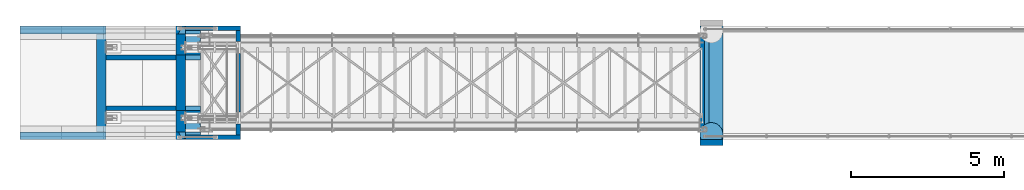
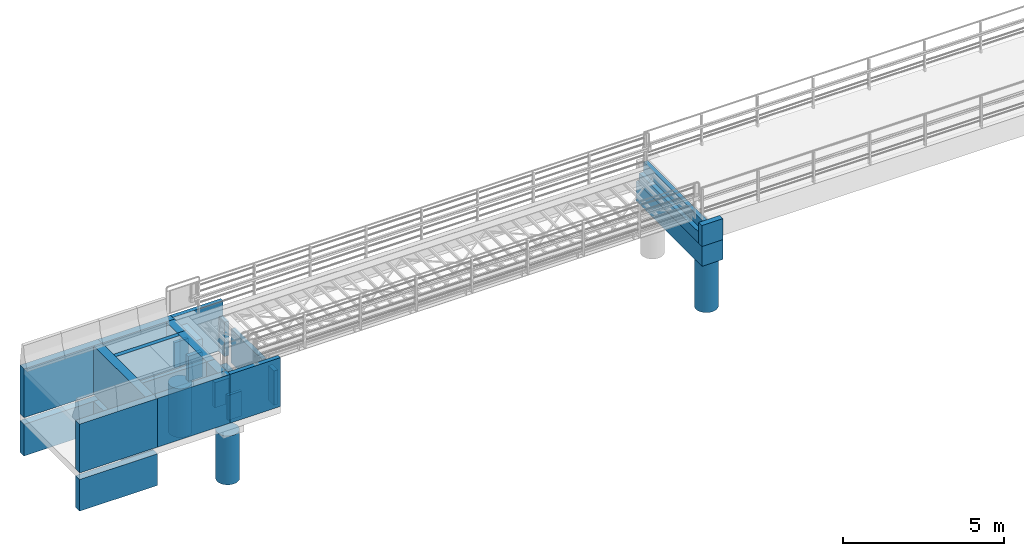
# One storey, part 30 of 31: 31 walls.
"""IFC2X3 building model written with IfcOpenShell, lengths in millimetres."""

from ifc_helpers import new_model, si_unit, frame, origin_with_axes, place, context, subcontext, project, spatial, faceted_brep, material, type_object, element, save


model = new_model("IFC2X3")

# Units and contexts
model_context = context("Model", 3, precision=1e-05, world=origin_with_axes())
body_context = subcontext(model_context, "Body", "Model", "MODEL_VIEW")
ifc_project = project(units=[si_unit("LENGTHUNIT", "METRE", prefix="MILLI"), si_unit("AREAUNIT", "SQUARE_METRE"), si_unit("VOLUMEUNIT", "CUBIC_METRE"), si_unit("MASSUNIT", "GRAM", prefix="KILO"), si_unit("TIMEUNIT", "SECOND"), si_unit("PLANEANGLEUNIT", "RADIAN"), si_unit("SOLIDANGLEUNIT", "STERADIAN"), si_unit("THERMODYNAMICTEMPERATUREUNIT", "DEGREE_CELSIUS"), si_unit("LUMINOUSINTENSITYUNIT", "LUMEN")], contexts=[model_context])

# Site, building, storey
site_placement = place(None, origin_with_axes())
site = spatial("IfcSite", under=ifc_project, at=site_placement, Name="Undefined", CompositionType="ELEMENT")
building_placement = place(site_placement, origin_with_axes())
building = spatial("IfcBuilding", under=site, at=building_placement, Name="Undefined", CompositionType="ELEMENT")
storey_placement = place(building_placement, origin_with_axes())
storey = spatial("IfcBuildingStorey", under=building, at=storey_placement, Name="Undefined", CompositionType="ELEMENT", Elevation=0.0)

# Walls
ifc_material = material(Name="CONCRETE/B35")
wall_type_1 = type_object("IfcWallType", Name="D750", PredefinedType="NOTDEFINED")
wall_1_placement = place(storey_placement, frame((2725.0, 2625.0, -2350.0), z_axis=(-1.0, 0.0, 0.0), x_axis=(0.0, 0.0, -1.0)))
element("IfcWall", 1, at=wall_1_placement, inside=storey, type_object=wall_type_1, material=ifc_material, Name="PLASSTØPTVEGG", context=body_context, shape_type="Brep", body=[
    faceted_brep([(0.0, -375.0, 0.0), (0.0, -371.791823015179, -48.9473220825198), (1850.0, -371.791823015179, -48.9473220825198), (1850.0, -375.0, 0.0), (0.0, -362.2221848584, -97.0571419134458), (1850.0, -362.2221848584, -97.0571419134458), (0.0, -346.454824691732, -143.506287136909), (1850.0, -346.454824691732, -143.506287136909), (0.0, -324.759526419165, -187.5), (1850.0, -324.759526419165, -187.5), (0.0, -297.507502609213, -228.28553587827), (1850.0, -297.507502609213, -228.28553587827), (0.0, -265.165042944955, -265.165042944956), (1850.0, -265.165042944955, -265.165042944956), (0.0, -228.28553587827, -297.507502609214), (1850.0, -228.28553587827, -297.507502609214), (0.0, -187.5, -324.759526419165), (1850.0, -187.5, -324.759526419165), (0.0, -143.506287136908, -346.454824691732), (1850.0, -143.506287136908, -346.454824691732), (0.0, -97.0571419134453, -362.222184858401), (1850.0, -97.0571419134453, -362.222184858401), (0.0, -48.9473220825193, -371.791823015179), (1850.0, -48.9473220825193, -371.791823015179), (0.0, 0.0, -375.0), (1850.0, 0.0, -375.0), (0.0, 48.9473220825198, -371.791823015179), (1850.0, 48.9473220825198, -371.791823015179), (0.0, 97.0571419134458, -362.2221848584), (1850.0, 97.0571419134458, -362.2221848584), (0.0, 143.506287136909, -346.454824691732), (1850.0, 143.506287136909, -346.454824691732), (0.0, 187.5, -324.759526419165), (1850.0, 187.5, -324.759526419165), (0.0, 228.28553587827, -297.507502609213), (1850.0, 228.28553587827, -297.507502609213), (0.0, 265.165042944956, -265.165042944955), (1850.0, 265.165042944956, -265.165042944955), (0.0, 297.507502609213, -228.28553587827), (1850.0, 297.507502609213, -228.28553587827), (0.0, 324.759526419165, -187.5), (1850.0, 324.759526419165, -187.5), (0.0, 346.454824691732, -143.506287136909), (1850.0, 346.454824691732, -143.506287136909), (0.0, 362.222184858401, -97.0571419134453), (1850.0, 362.222184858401, -97.0571419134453), (0.0, 371.791823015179, -48.9473220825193), (1850.0, 371.791823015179, -48.9473220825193), (0.0, 375.0, 0.0), (1850.0, 375.0, 0.0), (0.0, 371.791823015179, 48.9473220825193), (1850.0, 371.791823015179, 48.9473220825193), (0.0, 362.2221848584, 97.0571419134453), (1850.0, 362.2221848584, 97.0571419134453), (0.0, 346.454824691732, 143.506287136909), (1850.0, 346.454824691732, 143.506287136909), (0.0, 324.759526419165, 187.5), (1850.0, 324.759526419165, 187.5), (0.0, 297.507502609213, 228.28553587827), (1850.0, 297.507502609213, 228.28553587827), (0.0, 265.165042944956, 265.165042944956), (1850.0, 265.165042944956, 265.165042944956), (0.0, 228.28553587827, 297.507502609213), (1850.0, 228.28553587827, 297.507502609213), (0.0, 187.5, 324.759526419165), (1850.0, 187.5, 324.759526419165), (0.0, 143.506287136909, 346.454824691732), (1850.0, 143.506287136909, 346.454824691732), (0.0, 97.0571419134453, 362.2221848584), (1850.0, 97.0571419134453, 362.2221848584), (0.0, 48.9473220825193, 371.791823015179), (1850.0, 48.9473220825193, 371.791823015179), (0.0, 0.0, 375.0), (1850.0, 0.0, 375.0), (0.0, -48.9473220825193, 371.791823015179), (1850.0, -48.9473220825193, 371.791823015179), (0.0, -97.0571419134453, 362.2221848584), (1850.0, -97.0571419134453, 362.2221848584), (0.0, -143.506287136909, 346.454824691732), (1850.0, -143.506287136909, 346.454824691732), (0.0, -187.5, 324.759526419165), (1850.0, -187.5, 324.759526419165), (0.0, -228.28553587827, 297.507502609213), (1850.0, -228.28553587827, 297.507502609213), (0.0, -265.165042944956, 265.165042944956), (1850.0, -265.165042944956, 265.165042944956), (0.0, -297.507502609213, 228.28553587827), (1850.0, -297.507502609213, 228.28553587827), (0.0, -324.759526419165, 187.5), (1850.0, -324.759526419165, 187.5), (0.0, -346.454824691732, 143.506287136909), (1850.0, -346.454824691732, 143.506287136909), (0.0, -362.2221848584, 97.0571419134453), (1850.0, -362.2221848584, 97.0571419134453), (0.0, -371.791823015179, 48.9473220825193), (1850.0, -371.791823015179, 48.9473220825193)], [[[0, 1, 2, 3]], [[1, 4, 5, 2]], [[4, 6, 7, 5]], [[6, 8, 9, 7]], [[8, 10, 11, 9]], [[10, 12, 13, 11]], [[12, 14, 15, 13]], [[14, 16, 17, 15]], [[16, 18, 19, 17]], [[18, 20, 21, 19]], [[20, 22, 23, 21]], [[22, 24, 25, 23]], [[24, 26, 27, 25]], [[26, 28, 29, 27]], [[28, 30, 31, 29]], [[30, 32, 33, 31]], [[32, 34, 35, 33]], [[34, 36, 37, 35]], [[36, 38, 39, 37]], [[38, 40, 41, 39]], [[40, 42, 43, 41]], [[42, 44, 45, 43]], [[44, 46, 47, 45]], [[46, 48, 49, 47]], [[48, 50, 51, 49]], [[50, 52, 53, 51]], [[52, 54, 55, 53]], [[54, 56, 57, 55]], [[56, 58, 59, 57]], [[58, 60, 61, 59]], [[60, 62, 63, 61]], [[62, 64, 65, 63]], [[64, 66, 67, 65]], [[66, 68, 69, 67]], [[68, 70, 71, 69]], [[70, 72, 73, 71]], [[72, 74, 75, 73]], [[74, 76, 77, 75]], [[76, 78, 79, 77]], [[78, 80, 81, 79]], [[80, 82, 83, 81]], [[82, 84, 85, 83]], [[84, 86, 87, 85]], [[86, 88, 89, 87]], [[88, 90, 91, 89]], [[90, 92, 93, 91]], [[92, 94, 95, 93]], [[94, 0, 3, 95]], [[5, 7, 9, 11, 13, 15, 17, 19, 21, 23, 25, 27, 29, 31, 33, 35, 37, 39, 41, 43, 45, 47, 49, 51, 53, 55, 57, 59, 61, 63, 65, 67, 69, 71, 73, 75, 77, 79, 81, 83, 85, 87, 89, 91, 93, 95, 3, 2]], [[94, 92, 90, 88, 86, 84, 82, 80, 78, 76, 74, 72, 70, 68, 66, 64, 62, 60, 58, 56, 54, 52, 50, 48, 46, 44, 42, 40, 38, 36, 34, 32, 30, 28, 26, 24, 22, 20, 18, 16, 14, 12, 10, 8, 6, 4, 1, 0]]]),
])
wall_2_placement = place(storey_placement, frame((19775.0, -525.0, -1670.0), z_axis=(-1.0, 0.0, 0.0), x_axis=(0.0, 0.0, -1.0)))
element("IfcWall", 2, at=wall_2_placement, inside=storey, type_object=wall_type_1, material=ifc_material, Name="PLASSTØPTVEGG", context=body_context, shape_type="Brep", body=[
    faceted_brep([(0.0, -375.0, 0.0), (0.0, -371.791823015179, -48.9473220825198), (1850.0, -371.791823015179, -48.9473220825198), (1850.0, -375.0, 0.0), (0.0, -362.2221848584, -97.0571419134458), (1850.0, -362.2221848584, -97.0571419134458), (0.0, -346.454824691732, -143.506287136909), (1850.0, -346.454824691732, -143.506287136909), (0.0, -324.759526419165, -187.5), (1850.0, -324.759526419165, -187.5), (0.0, -297.507502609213, -228.28553587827), (1850.0, -297.507502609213, -228.28553587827), (0.0, -265.165042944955, -265.165042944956), (1850.0, -265.165042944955, -265.165042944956), (0.0, -228.28553587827, -297.507502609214), (1850.0, -228.28553587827, -297.507502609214), (0.0, -187.5, -324.759526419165), (1850.0, -187.5, -324.759526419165), (0.0, -143.506287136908, -346.454824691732), (1850.0, -143.506287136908, -346.454824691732), (0.0, -97.0571419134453, -362.222184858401), (1850.0, -97.0571419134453, -362.222184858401), (0.0, -48.9473220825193, -371.791823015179), (1850.0, -48.9473220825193, -371.791823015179), (0.0, 0.0, -375.0), (1850.0, 0.0, -375.0), (0.0, 48.9473220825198, -371.791823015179), (1850.0, 48.9473220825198, -371.791823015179), (0.0, 97.0571419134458, -362.2221848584), (1850.0, 97.0571419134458, -362.2221848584), (0.0, 143.506287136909, -346.454824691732), (1850.0, 143.506287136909, -346.454824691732), (0.0, 187.5, -324.759526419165), (1850.0, 187.5, -324.759526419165), (0.0, 228.28553587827, -297.507502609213), (1850.0, 228.28553587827, -297.507502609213), (0.0, 265.165042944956, -265.165042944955), (1850.0, 265.165042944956, -265.165042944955), (0.0, 297.507502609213, -228.28553587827), (1850.0, 297.507502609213, -228.28553587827), (0.0, 324.759526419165, -187.5), (1850.0, 324.759526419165, -187.5), (0.0, 346.454824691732, -143.506287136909), (1850.0, 346.454824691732, -143.506287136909), (0.0, 362.222184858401, -97.0571419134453), (1850.0, 362.222184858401, -97.0571419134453), (0.0, 371.791823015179, -48.9473220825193), (1850.0, 371.791823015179, -48.9473220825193), (0.0, 375.0, 0.0), (1850.0, 375.0, 0.0), (0.0, 371.791823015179, 48.9473220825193), (1850.0, 371.791823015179, 48.9473220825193), (0.0, 362.2221848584, 97.0571419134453), (1850.0, 362.2221848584, 97.0571419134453), (0.0, 346.454824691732, 143.506287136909), (1850.0, 346.454824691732, 143.506287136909), (0.0, 324.759526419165, 187.5), (1850.0, 324.759526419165, 187.5), (0.0, 297.507502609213, 228.28553587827), (1850.0, 297.507502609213, 228.28553587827), (0.0, 265.165042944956, 265.165042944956), (1850.0, 265.165042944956, 265.165042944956), (0.0, 228.28553587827, 297.507502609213), (1850.0, 228.28553587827, 297.507502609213), (0.0, 187.5, 324.759526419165), (1850.0, 187.5, 324.759526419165), (0.0, 143.506287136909, 346.454824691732), (1850.0, 143.506287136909, 346.454824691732), (0.0, 97.0571419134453, 362.2221848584), (1850.0, 97.0571419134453, 362.2221848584), (0.0, 48.9473220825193, 371.791823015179), (1850.0, 48.9473220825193, 371.791823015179), (0.0, 0.0, 375.0), (1850.0, 0.0, 375.0), (0.0, -48.9473220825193, 371.791823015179), (1850.0, -48.9473220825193, 371.791823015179), (0.0, -97.0571419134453, 362.2221848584), (1850.0, -97.0571419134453, 362.2221848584), (0.0, -143.506287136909, 346.454824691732), (1850.0, -143.506287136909, 346.454824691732), (0.0, -187.5, 324.759526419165), (1850.0, -187.5, 324.759526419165), (0.0, -228.28553587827, 297.507502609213), (1850.0, -228.28553587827, 297.507502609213), (0.0, -265.165042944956, 265.165042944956), (1850.0, -265.165042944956, 265.165042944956), (0.0, -297.507502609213, 228.28553587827), (1850.0, -297.507502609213, 228.28553587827), (0.0, -324.759526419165, 187.5), (1850.0, -324.759526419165, 187.5), (0.0, -346.454824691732, 143.506287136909), (1850.0, -346.454824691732, 143.506287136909), (0.0, -362.2221848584, 97.0571419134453), (1850.0, -362.2221848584, 97.0571419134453), (0.0, -371.791823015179, 48.9473220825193), (1850.0, -371.791823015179, 48.9473220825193)], [[[0, 1, 2, 3]], [[1, 4, 5, 2]], [[4, 6, 7, 5]], [[6, 8, 9, 7]], [[8, 10, 11, 9]], [[10, 12, 13, 11]], [[12, 14, 15, 13]], [[14, 16, 17, 15]], [[16, 18, 19, 17]], [[18, 20, 21, 19]], [[20, 22, 23, 21]], [[22, 24, 25, 23]], [[24, 26, 27, 25]], [[26, 28, 29, 27]], [[28, 30, 31, 29]], [[30, 32, 33, 31]], [[32, 34, 35, 33]], [[34, 36, 37, 35]], [[36, 38, 39, 37]], [[38, 40, 41, 39]], [[40, 42, 43, 41]], [[42, 44, 45, 43]], [[44, 46, 47, 45]], [[46, 48, 49, 47]], [[48, 50, 51, 49]], [[50, 52, 53, 51]], [[52, 54, 55, 53]], [[54, 56, 57, 55]], [[56, 58, 59, 57]], [[58, 60, 61, 59]], [[60, 62, 63, 61]], [[62, 64, 65, 63]], [[64, 66, 67, 65]], [[66, 68, 69, 67]], [[68, 70, 71, 69]], [[70, 72, 73, 71]], [[72, 74, 75, 73]], [[74, 76, 77, 75]], [[76, 78, 79, 77]], [[78, 80, 81, 79]], [[80, 82, 83, 81]], [[82, 84, 85, 83]], [[84, 86, 87, 85]], [[86, 88, 89, 87]], [[88, 90, 91, 89]], [[90, 92, 93, 91]], [[92, 94, 95, 93]], [[94, 0, 3, 95]], [[5, 7, 9, 11, 13, 15, 17, 19, 21, 23, 25, 27, 29, 31, 33, 35, 37, 39, 41, 43, 45, 47, 49, 51, 53, 55, 57, 59, 61, 63, 65, 67, 69, 71, 73, 75, 77, 79, 81, 83, 85, 87, 89, 91, 93, 95, 3, 2]], [[94, 92, 90, 88, 86, 84, 82, 80, 78, 76, 74, 72, 70, 68, 66, 64, 62, 60, 58, 56, 54, 52, 50, 48, 46, 44, 42, 40, 38, 36, 34, 32, 30, 28, 26, 24, 22, 20, 18, 16, 14, 12, 10, 8, 6, 4, 1, 0]]]),
])
wall_3_placement = place(storey_placement, frame((2725.0, -325.0, -2350.0), z_axis=(-1.0, 0.0, 0.0), x_axis=(0.0, 0.0, -1.0)))
element("IfcWall", 3, at=wall_3_placement, inside=storey, type_object=wall_type_1, material=ifc_material, Name="PLASSTØPTVEGG", context=body_context, shape_type="Brep", body=[
    faceted_brep([(0.0, -375.0, 0.0), (0.0, -371.791823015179, -48.9473220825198), (1850.0, -371.791823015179, -48.9473220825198), (1850.0, -375.0, 0.0), (0.0, -362.2221848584, -97.0571419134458), (1850.0, -362.2221848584, -97.0571419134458), (0.0, -346.454824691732, -143.506287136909), (1850.0, -346.454824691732, -143.506287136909), (0.0, -324.759526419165, -187.5), (1850.0, -324.759526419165, -187.5), (0.0, -297.507502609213, -228.28553587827), (1850.0, -297.507502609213, -228.28553587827), (0.0, -265.165042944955, -265.165042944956), (1850.0, -265.165042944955, -265.165042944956), (0.0, -228.28553587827, -297.507502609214), (1850.0, -228.28553587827, -297.507502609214), (0.0, -187.5, -324.759526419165), (1850.0, -187.5, -324.759526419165), (0.0, -143.506287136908, -346.454824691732), (1850.0, -143.506287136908, -346.454824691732), (0.0, -97.0571419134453, -362.222184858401), (1850.0, -97.0571419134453, -362.222184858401), (0.0, -48.9473220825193, -371.791823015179), (1850.0, -48.9473220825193, -371.791823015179), (0.0, 0.0, -375.0), (1850.0, 0.0, -375.0), (0.0, 48.9473220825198, -371.791823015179), (1850.0, 48.9473220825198, -371.791823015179), (0.0, 97.0571419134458, -362.2221848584), (1850.0, 97.0571419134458, -362.2221848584), (0.0, 143.506287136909, -346.454824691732), (1850.0, 143.506287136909, -346.454824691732), (0.0, 187.5, -324.759526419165), (1850.0, 187.5, -324.759526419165), (0.0, 228.28553587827, -297.507502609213), (1850.0, 228.28553587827, -297.507502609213), (0.0, 265.165042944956, -265.165042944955), (1850.0, 265.165042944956, -265.165042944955), (0.0, 297.507502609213, -228.28553587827), (1850.0, 297.507502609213, -228.28553587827), (0.0, 324.759526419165, -187.5), (1850.0, 324.759526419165, -187.5), (0.0, 346.454824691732, -143.506287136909), (1850.0, 346.454824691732, -143.506287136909), (0.0, 362.222184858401, -97.0571419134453), (1850.0, 362.222184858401, -97.0571419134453), (0.0, 371.791823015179, -48.9473220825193), (1850.0, 371.791823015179, -48.9473220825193), (0.0, 375.0, 0.0), (1850.0, 375.0, 0.0), (0.0, 371.791823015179, 48.9473220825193), (1850.0, 371.791823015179, 48.9473220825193), (0.0, 362.2221848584, 97.0571419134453), (1850.0, 362.2221848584, 97.0571419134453), (0.0, 346.454824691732, 143.506287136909), (1850.0, 346.454824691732, 143.506287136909), (0.0, 324.759526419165, 187.5), (1850.0, 324.759526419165, 187.5), (0.0, 297.507502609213, 228.28553587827), (1850.0, 297.507502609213, 228.28553587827), (0.0, 265.165042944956, 265.165042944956), (1850.0, 265.165042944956, 265.165042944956), (0.0, 228.28553587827, 297.507502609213), (1850.0, 228.28553587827, 297.507502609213), (0.0, 187.5, 324.759526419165), (1850.0, 187.5, 324.759526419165), (0.0, 143.506287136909, 346.454824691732), (1850.0, 143.506287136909, 346.454824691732), (0.0, 97.0571419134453, 362.2221848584), (1850.0, 97.0571419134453, 362.2221848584), (0.0, 48.9473220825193, 371.791823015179), (1850.0, 48.9473220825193, 371.791823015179), (0.0, 0.0, 375.0), (1850.0, 0.0, 375.0), (0.0, -48.9473220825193, 371.791823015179), (1850.0, -48.9473220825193, 371.791823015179), (0.0, -97.0571419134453, 362.2221848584), (1850.0, -97.0571419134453, 362.2221848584), (0.0, -143.506287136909, 346.454824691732), (1850.0, -143.506287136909, 346.454824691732), (0.0, -187.5, 324.759526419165), (1850.0, -187.5, 324.759526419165), (0.0, -228.28553587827, 297.507502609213), (1850.0, -228.28553587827, 297.507502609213), (0.0, -265.165042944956, 265.165042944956), (1850.0, -265.165042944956, 265.165042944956), (0.0, -297.507502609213, 228.28553587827), (1850.0, -297.507502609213, 228.28553587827), (0.0, -324.759526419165, 187.5), (1850.0, -324.759526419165, 187.5), (0.0, -346.454824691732, 143.506287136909), (1850.0, -346.454824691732, 143.506287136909), (0.0, -362.2221848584, 97.0571419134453), (1850.0, -362.2221848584, 97.0571419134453), (0.0, -371.791823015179, 48.9473220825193), (1850.0, -371.791823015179, 48.9473220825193)], [[[0, 1, 2, 3]], [[1, 4, 5, 2]], [[4, 6, 7, 5]], [[6, 8, 9, 7]], [[8, 10, 11, 9]], [[10, 12, 13, 11]], [[12, 14, 15, 13]], [[14, 16, 17, 15]], [[16, 18, 19, 17]], [[18, 20, 21, 19]], [[20, 22, 23, 21]], [[22, 24, 25, 23]], [[24, 26, 27, 25]], [[26, 28, 29, 27]], [[28, 30, 31, 29]], [[30, 32, 33, 31]], [[32, 34, 35, 33]], [[34, 36, 37, 35]], [[36, 38, 39, 37]], [[38, 40, 41, 39]], [[40, 42, 43, 41]], [[42, 44, 45, 43]], [[44, 46, 47, 45]], [[46, 48, 49, 47]], [[48, 50, 51, 49]], [[50, 52, 53, 51]], [[52, 54, 55, 53]], [[54, 56, 57, 55]], [[56, 58, 59, 57]], [[58, 60, 61, 59]], [[60, 62, 63, 61]], [[62, 64, 65, 63]], [[64, 66, 67, 65]], [[66, 68, 69, 67]], [[68, 70, 71, 69]], [[70, 72, 73, 71]], [[72, 74, 75, 73]], [[74, 76, 77, 75]], [[76, 78, 79, 77]], [[78, 80, 81, 79]], [[80, 82, 83, 81]], [[82, 84, 85, 83]], [[84, 86, 87, 85]], [[86, 88, 89, 87]], [[88, 90, 91, 89]], [[90, 92, 93, 91]], [[92, 94, 95, 93]], [[94, 0, 3, 95]], [[5, 7, 9, 11, 13, 15, 17, 19, 21, 23, 25, 27, 29, 31, 33, 35, 37, 39, 41, 43, 45, 47, 49, 51, 53, 55, 57, 59, 61, 63, 65, 67, 69, 71, 73, 75, 77, 79, 81, 83, 85, 87, 89, 91, 93, 95, 3, 2]], [[94, 92, 90, 88, 86, 84, 82, 80, 78, 76, 74, 72, 70, 68, 66, 64, 62, 60, 58, 56, 54, 52, 50, 48, 46, 44, 42, 40, 38, 36, 34, 32, 30, 28, 26, 24, 22, 20, 18, 16, 14, 12, 10, 8, 6, 4, 1, 0]]]),
])
wall_type_2 = type_object("IfcWallType", Name="1200*250", PredefinedType="NOTDEFINED")
for number, where, z_axis, x_axis in (
    (4, (0.0, 2875.0, -2700.0), (0.0, 0.0, 1.0), (-1.0, 0.0, 0.0)),
    (5, (0.0, -575.0, -2700.0), (0.0, 0.0, 1.0), (-1.0, 0.0, 0.0)),
):
    element("IfcWall", number, at=place(storey_placement, frame(where, z_axis=z_axis, x_axis=x_axis)), inside=storey, type_object=wall_type_2, material=ifc_material, Name="PLASSTØPTVEGG", context=body_context, shape_type="Brep", body=[
        faceted_brep([(0.0, 125.0, -600.0), (0.0, 125.0, 600.0), (2800.0, 125.0, 600.0), (2800.0, 125.0, -600.0), (0.0, -125.0, 600.0), (2800.0, -125.0, 600.0), (0.0, -125.0, -600.0), (2800.0, -125.0, -600.0)], [[[0, 1, 2, 3]], [[1, 4, 5, 2]], [[4, 6, 7, 5]], [[6, 0, 3, 7]], [[5, 7, 3, 2]], [[6, 4, 1, 0]]]),
    ])
wall_type_3 = type_object("IfcWallType", Name="1200*300", PredefinedType="NOTDEFINED")
wall_4_placement = place(storey_placement, frame((-150.0, 2750.0, -2700.0), z_axis=(0.0, 0.0, 1.0), x_axis=(0.0, -1.0, 0.0)))
element("IfcWall", 6, at=wall_4_placement, inside=storey, type_object=wall_type_3, material=ifc_material, Name="PLASSTØPTVEGG", context=body_context, shape_type="Brep", body=[
    faceted_brep([(0.0, 150.0, -600.0), (0.0, 150.0, 600.0), (3200.0, 150.0, 600.0), (3200.0, 150.0, -600.0), (0.0, -150.0, 600.0), (3200.0, -150.0, 600.0), (0.0, -150.0, -600.0), (3200.0, -150.0, -600.0)], [[[0, 1, 2, 3]], [[1, 4, 5, 2]], [[4, 6, 7, 5]], [[6, 0, 3, 7]], [[5, 7, 3, 2]], [[6, 4, 1, 0]]]),
])
wall_type_4 = type_object("IfcWallType", Name="800*200", PredefinedType="NOTDEFINED")
wall_5_placement = place(storey_placement, frame((20150.0, -800.0, -521.0), z_axis=(0.0, 0.0, 1.0), x_axis=(-1.0, 0.0, 0.0)))
element("IfcWall", 7, at=wall_5_placement, inside=storey, type_object=wall_type_4, material=ifc_material, Name="PLASSTØPTVEGG", context=body_context, shape_type="Brep", body=[
    faceted_brep([(0.0, 100.0, -400.0), (0.0, 100.0, 400.0), (750.0, 100.0, 400.0), (750.0, 100.0, -400.0), (0.0, -100.0, 400.0), (750.0, -100.0, 400.0), (0.0, -100.0, -400.0), (750.0, -100.0, -400.0)], [[[0, 1, 2, 3]], [[1, 4, 5, 2]], [[4, 6, 7, 5]], [[6, 0, 3, 7]], [[5, 7, 3, 2]], [[6, 4, 1, 0]]]),
])
wall_type_5 = type_object("IfcWallType", Name="425*3700", PredefinedType="NOTDEFINED")
wall_6_placement = place(storey_placement, frame((19700.0, 1150.0, -707.5), z_axis=(0.0, 0.0, 1.0), x_axis=(-1.0, 0.0, 0.0)))
element("IfcWall", 8, at=wall_6_placement, inside=storey, type_object=wall_type_5, material=ifc_material, Name="PLASSTØPTVEGG", context=body_context, shape_type="Brep", body=[
    faceted_brep([(0.0, 1850.0, -212.5), (0.0, 1850.0, 212.5), (300.0, 1850.0, 212.5), (300.0, 1850.0, -212.5), (0.0, -1850.0, 212.5), (300.0, -1850.0, 212.5), (0.0, -1850.0, -212.5), (300.0, -1850.0, -212.5)], [[[0, 1, 2, 3]], [[1, 4, 5, 2]], [[4, 6, 7, 5]], [[6, 0, 3, 7]], [[5, 7, 3, 2]], [[6, 4, 1, 0]]]),
])
wall_type_6 = type_object("IfcWallType", Name="750*4100", PredefinedType="NOTDEFINED")
wall_7_placement = place(storey_placement, frame((20150.0, 1150.0, -1295.0), z_axis=(0.0, 0.0, 1.0), x_axis=(-1.0, 0.0, 0.0)))
element("IfcWall", 9, at=wall_7_placement, inside=storey, type_object=wall_type_6, material=ifc_material, Name="PLASSTØPTVEGG", context=body_context, shape_type="Brep", body=[
    faceted_brep([(0.0, 2050.0, -375.0), (0.0, 2050.0, 375.0), (750.0, 2050.0, 375.0), (750.0, 2050.0, -375.0), (0.0, -2050.0, 375.0), (750.0, -2050.0, 375.0), (0.0, -2050.0, -375.0), (750.0, -2050.0, -375.0)], [[[0, 1, 2, 3]], [[1, 4, 5, 2]], [[4, 6, 7, 5]], [[6, 0, 3, 7]], [[5, 7, 3, 2]], [[6, 4, 1, 0]]]),
])
wall_type_7 = type_object("IfcWallType", Name="380*3700", PredefinedType="NOTDEFINED")
wall_8_placement = place(storey_placement, frame((19700.0, 1150.0, -310.0), z_axis=(0.0, 0.0, 1.0), x_axis=(-1.0, 0.0, 0.0)))
element("IfcWall", 10, at=wall_8_placement, inside=storey, type_object=wall_type_7, material=ifc_material, Name="PLASSTØPTVEGG", context=body_context, shape_type="Brep", body=[
    faceted_brep([(0.0, 1850.0, -190.0), (0.0, 1850.0, 190.0), (150.0, 1850.0, 190.0), (150.0, 1850.0, -190.0), (0.0, -1850.0, 190.0), (150.0, -1850.0, 190.0), (0.0, -1850.0, -190.0), (150.0, -1850.0, -190.0)], [[[0, 1, 2, 3]], [[1, 4, 5, 2]], [[4, 6, 7, 5]], [[6, 0, 3, 7]], [[5, 7, 3, 2]], [[6, 4, 1, 0]]]),
])
wall_type_8 = type_object("IfcWallType", Name="950*150", PredefinedType="NOTDEFINED")
for number, where, z_axis, x_axis in (
    (11, (3100.0, 325.0, -1375.0), (0.0, 0.0, 1.0), (-1.0, 0.0, 0.0)),
    (12, (3100.0, 1975.0, -1375.0), (0.0, 0.0, 1.0), (-1.0, 0.0, 0.0)),
):
    element("IfcWall", number, at=place(storey_placement, frame(where, z_axis=z_axis, x_axis=x_axis)), inside=storey, type_object=wall_type_8, material=ifc_material, Name="PLASSTØPTVEGG", context=body_context, shape_type="Brep", body=[
        faceted_brep([(0.0, 75.0, -475.0), (0.0, 75.0, 475.0), (500.0, 75.0, 475.0), (500.0, 75.0, -475.0), (0.0, -75.0, 475.0), (500.0, -75.0, 475.0), (0.0, -75.0, -475.0), (500.0, -75.0, -475.0)], [[[0, 1, 2, 3]], [[1, 4, 5, 2]], [[4, 6, 7, 5]], [[6, 0, 3, 7]], [[5, 7, 3, 2]], [[6, 4, 1, 0]]]),
    ])
wall_type_9 = type_object("IfcWallType", Name="950*100", PredefinedType="NOTDEFINED")
for number, where, z_axis, x_axis in (
    (13, (3100.0, -500.0, -1375.0), (0.0, 0.0, 1.0), (-1.0, 0.0, 0.0)),
    (14, (3100.0, 2800.0, -1375.0), (0.0, 0.0, 1.0), (-1.0, 0.0, 0.0)),
):
    element("IfcWall", number, at=place(storey_placement, frame(where, z_axis=z_axis, x_axis=x_axis)), inside=storey, type_object=wall_type_9, material=ifc_material, Name="PLASSTØPTVEGG", context=body_context, shape_type="Brep", body=[
        faceted_brep([(0.0, 50.0, -475.0), (0.0, 50.0, 475.0), (500.0, 50.0, 475.0), (500.0, 50.0, -475.0), (0.0, -50.0, 475.0), (500.0, -50.0, 475.0), (0.0, -50.0, -475.0), (500.0, -50.0, -475.0)], [[[0, 1, 2, 3]], [[1, 4, 5, 2]], [[4, 6, 7, 5]], [[6, 0, 3, 7]], [[5, 7, 3, 2]], [[6, 4, 1, 0]]]),
    ])
wall_type_10 = type_object("IfcWallType", Name="900*300", PredefinedType="NOTDEFINED")
for number, where, z_axis, x_axis in (
    (15, (2450.0, 250.0, -450.0), (0.0, 0.0, 1.0), (0.0, -1.0, 0.0)),
    (16, (2450.0, 2750.0, -450.0), (0.0, 0.0, 1.0), (0.0, -1.0, 0.0)),
):
    element("IfcWall", number, at=place(storey_placement, frame(where, z_axis=z_axis, x_axis=x_axis)), inside=storey, type_object=wall_type_10, material=ifc_material, Name="PLASSTØPTVEGG", context=body_context, shape_type="Brep", body=[
        faceted_brep([(0.0, 150.0, -450.0), (0.0, 150.0, 450.0), (700.0, 150.0, 450.0), (700.0, 150.0, -450.0), (0.0, -150.0, 450.0), (700.0, -150.0, 450.0), (0.0, -150.0, -450.0), (700.0, -150.0, -450.0)], [[[0, 1, 2, 3]], [[1, 4, 5, 2]], [[4, 6, 7, 5]], [[6, 0, 3, 7]], [[5, 7, 3, 2]], [[6, 4, 1, 0]]]),
    ])
wall_type_11 = type_object("IfcWallType", Name="500*950", PredefinedType="NOTDEFINED")
for number, where, z_axis, x_axis in (
    (17, (3100.0, 2375.0, -650.0), (0.0, 0.0, 1.0), (-1.0, 0.0, 0.0)),
    (18, (3100.0, -75.0, -650.0), (0.0, 0.0, 1.0), (-1.0, 0.0, 0.0)),
):
    element("IfcWall", number, at=place(storey_placement, frame(where, z_axis=z_axis, x_axis=x_axis)), inside=storey, type_object=wall_type_11, material=ifc_material, Name="PLASSTØPTVEGG", context=body_context, shape_type="Brep", body=[
        faceted_brep([(0.0, 475.0, -250.0), (0.0, 475.0, 250.0), (500.0, 475.0, 250.0), (500.0, 475.0, -250.0), (0.0, -475.0, 250.0), (500.0, -475.0, 250.0), (0.0, -475.0, -250.0), (500.0, -475.0, -250.0)], [[[0, 1, 2, 3]], [[1, 4, 5, 2]], [[4, 6, 7, 5]], [[6, 0, 3, 7]], [[5, 7, 3, 2]], [[6, 4, 1, 0]]]),
    ])
wall_type_12 = type_object("IfcWallType", Name="1300*150", PredefinedType="NOTDEFINED")
wall_9_placement = place(storey_placement, frame((4325.0, 2100.0, -1200.0), z_axis=(0.0, 0.0, 1.0), x_axis=(0.0, -1.0, 0.0)))
element("IfcWall", 19, at=wall_9_placement, inside=storey, type_object=wall_type_12, material=ifc_material, Name="PLASSTØPTVEGG", context=body_context, shape_type="Brep", body=[
    faceted_brep([(0.0, 75.0, -650.0), (0.0, 75.0, 650.0), (1900.0, 75.0, 650.0), (1900.0, 75.0, -650.0), (0.0, -75.0, 650.0), (1900.0, -75.0, 650.0), (0.0, -75.0, -650.0), (1900.0, -75.0, -650.0)], [[[0, 1, 2, 3]], [[1, 4, 5, 2]], [[4, 6, 7, 5]], [[6, 0, 3, 7]], [[5, 7, 3, 2]], [[6, 4, 1, 0]]]),
])
for number, where, z_axis, x_axis in (
    (20, (4325.0, 2850.0, -1200.0), (0.0, 0.0, 1.0), (0.0, -1.0, 0.0)),
    (21, (4325.0, -200.0, -1200.0), (0.0, 0.0, 1.0), (0.0, -1.0, 0.0)),
):
    element("IfcWall", number, at=place(storey_placement, frame(where, z_axis=z_axis, x_axis=x_axis)), inside=storey, type_object=wall_type_12, material=ifc_material, Name="PLASSTØPTVEGG", context=body_context, shape_type="Brep", body=[
        faceted_brep([(0.0, 75.0, -650.0), (0.0, 75.0, 650.0), (350.0, 75.0, 650.0), (350.0, 75.0, -650.0), (0.0, -75.0, 650.0), (350.0, -75.0, 650.0), (0.0, -75.0, -650.0), (350.0, -75.0, -650.0)], [[[0, 1, 2, 3]], [[1, 4, 5, 2]], [[4, 6, 7, 5]], [[6, 0, 3, 7]], [[5, 7, 3, 2]], [[6, 4, 1, 0]]]),
    ])
wall_type_13 = type_object("IfcWallType", Name="1850*150", PredefinedType="NOTDEFINED")
for number, where, z_axis, x_axis in (
    (22, (2300.0, 1975.0, -925.0), (0.0, 0.0, 1.0), (-1.0, 0.0, 0.0)),
    (23, (2300.0, 325.0, -925.0), (0.0, 0.0, 1.0), (-1.0, 0.0, 0.0)),
):
    element("IfcWall", number, at=place(storey_placement, frame(where, z_axis=z_axis, x_axis=x_axis)), inside=storey, type_object=wall_type_13, material=ifc_material, Name="PLASSTØPTVEGG", context=body_context, shape_type="Brep", body=[
        faceted_brep([(0.0, 75.0, -925.0), (0.0, 75.0, 925.0), (2300.0, 75.0, 925.0), (2300.0, 75.0, -925.0), (0.0, -75.0, 925.0), (2300.0, -75.0, 925.0), (0.0, -75.0, -925.0), (2300.0, -75.0, -925.0)], [[[0, 1, 2, 3]], [[1, 4, 5, 2]], [[4, 6, 7, 5]], [[6, 0, 3, 7]], [[5, 7, 3, 2]], [[6, 4, 1, 0]]]),
    ])
for number, where, z_axis, x_axis in (
    (24, (4400.0, 2925.0, -925.0), (0.0, 0.0, 1.0), (-1.0, 0.0, 0.0)),
    (25, (4400.0, -625.0, -925.0), (0.0, 0.0, 1.0), (-1.0, 0.0, 0.0)),
):
    element("IfcWall", number, at=place(storey_placement, frame(where, z_axis=z_axis, x_axis=x_axis)), inside=storey, type_object=wall_type_13, material=ifc_material, Name="PLASSTØPTVEGG", context=body_context, shape_type="Brep", body=[
        faceted_brep([(0.0, 75.0, -925.0), (0.0, 75.0, 925.0), (1800.0, 75.0, 925.0), (1800.0, 75.0, -925.0), (0.0, -75.0, 925.0), (1800.0, -75.0, 925.0), (0.0, -75.0, -925.0), (1800.0, -75.0, -925.0)], [[[0, 1, 2, 3]], [[1, 4, 5, 2]], [[4, 6, 7, 5]], [[6, 0, 3, 7]], [[5, 7, 3, 2]], [[6, 4, 1, 0]]]),
    ])
wall_type_14 = type_object("IfcWallType", Name="1850*250", PredefinedType="NOTDEFINED")
for number, where, z_axis, x_axis in (
    (26, (2600.0, 2875.0, -925.0), (0.0, 0.0, 1.0), (-1.0, 0.0, 0.0)),
    (27, (2600.0, -575.0, -925.0), (0.0, 0.0, 1.0), (-1.0, 0.0, 0.0)),
):
    element("IfcWall", number, at=place(storey_placement, frame(where, z_axis=z_axis, x_axis=x_axis)), inside=storey, type_object=wall_type_14, material=ifc_material, Name="PLASSTØPTVEGG", context=body_context, shape_type="Brep", body=[
        faceted_brep([(0.0, 125.0, -925.0), (0.0, 125.0, 925.0), (2600.0, 125.0, 925.0), (2600.0, 125.0, -925.0), (0.0, -125.0, 925.0), (2600.0, -125.0, 925.0), (0.0, -125.0, -925.0), (2600.0, -125.0, -925.0)], [[[0, 1, 2, 3]], [[1, 4, 5, 2]], [[4, 6, 7, 5]], [[6, 0, 3, 7]], [[5, 7, 3, 2]], [[6, 4, 1, 0]]]),
    ])
for number, where, z_axis, x_axis in (
    (28, (0.0, -575.0, -925.0), (0.0, 0.0, 1.0), (-1.0, 0.0, 0.0)),
    (29, (0.0, 2875.0, -925.0), (0.0, 0.0, 1.0), (-1.0, 0.0, 0.0)),
):
    element("IfcWall", number, at=place(storey_placement, frame(where, z_axis=z_axis, x_axis=x_axis)), inside=storey, type_object=wall_type_14, material=ifc_material, Name="PLASSTØPTVEGG", context=body_context, shape_type="Brep", body=[
        faceted_brep([(0.0, 125.0, -925.0), (0.0, 125.0, 925.0), (2800.0, 125.0, 925.0), (2800.0, 125.0, -925.0), (0.0, -125.0, 925.0), (2800.0, -125.0, 925.0), (0.0, -125.0, -925.0), (2800.0, -125.0, -925.0)], [[[0, 1, 2, 3]], [[1, 4, 5, 2]], [[4, 6, 7, 5]], [[6, 0, 3, 7]], [[5, 7, 3, 2]], [[6, 4, 1, 0]]]),
    ])
wall_type_15 = type_object("IfcWallType", Name="1850*300", PredefinedType="NOTDEFINED")
wall_10_placement = place(storey_placement, frame((2450.0, 2050.0, -925.0), z_axis=(0.0, 0.0, 1.0), x_axis=(0.0, -1.0, 0.0)))
element("IfcWall", 30, at=wall_10_placement, inside=storey, type_object=wall_type_15, material=ifc_material, Name="PLASSTØPTVEGG", context=body_context, shape_type="Brep", body=[
    faceted_brep([(0.0, 150.0, -925.0), (0.0, 150.0, 925.0), (1800.0, 150.0, 925.0), (1800.0, 150.0, -925.0), (0.0, -150.0, 925.0), (1800.0, -150.0, 925.0), (0.0, -150.0, -925.0), (1800.0, -150.0, -925.0)], [[[0, 1, 2, 3]], [[1, 4, 5, 2]], [[4, 6, 7, 5]], [[6, 0, 3, 7]], [[5, 7, 3, 2]], [[6, 4, 1, 0]]]),
])
wall_11_placement = place(storey_placement, frame((-150.0, 2750.0, -925.0), z_axis=(0.0, 0.0, 1.0), x_axis=(0.0, -1.0, 0.0)))
element("IfcWall", 31, at=wall_11_placement, inside=storey, type_object=wall_type_15, material=ifc_material, Name="PLASSTØPTVEGG", context=body_context, shape_type="Brep", body=[
    faceted_brep([(0.0, 150.0, -925.0), (0.0, 150.0, 925.0), (3200.0, 150.0, 925.0), (3200.0, 150.0, -925.0), (0.0, -150.0, 925.0), (3200.0, -150.0, 925.0), (0.0, -150.0, -925.0), (3200.0, -150.0, -925.0)], [[[0, 1, 2, 3]], [[1, 4, 5, 2]], [[4, 6, 7, 5]], [[6, 0, 3, 7]], [[5, 7, 3, 2]], [[6, 4, 1, 0]]]),
])

save(model, "model.ifc")
